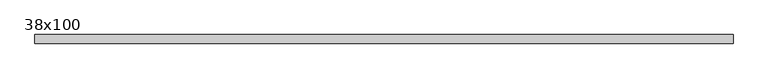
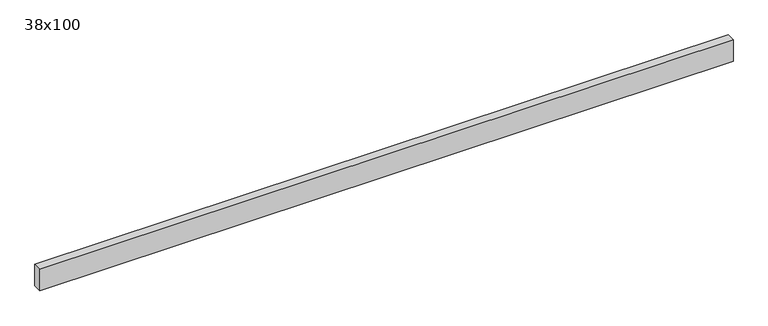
"""IFC4 building model written with IfcOpenShell, lengths in millimetres: beam geometry, Poutre - Bois de construction de dimensions courantes : 38x100."""

from ifc_helpers import new_model, si_unit, frame, origin, place, context, project, spatial, polyline, outline, extrude, source, transform, mapped, element, save


def beam_38x100_566ae520(model_context):
    return source(origin(), model_context, "Body", "SweptSolid", [
        extrude(outline(polyline([(1534.5, 19.05), (1534.5, -19.05), (-1534.5, -19.05), (-1534.5, 19.05), (1534.5, 19.05)])), frame((0.0, 0.0, -50.0), z_axis=(0.0, 0.0, 1.0), x_axis=(1.0, 0.0, 0.0)), (0.0, 0.0, 1.0), 100.0),
    ])


if __name__ == "__main__":
    model = new_model("IFC4")
    model_context = context("Model", 3, world=origin())
    ifc_project = project(units=[si_unit("LENGTHUNIT", "METRE", prefix="MILLI")], contexts=[model_context])
    site = spatial("IfcSite", under=ifc_project)
    building = spatial("IfcBuilding", under=site)
    placement = place(None, origin())
    beam_38x100_shape = beam_38x100_566ae520(model_context)
    element("IfcBeam", 1, ObjectType="Poutre - Bois de construction de dimensions courantes : 38x100", at=placement, inside=building, context=model_context, shape_type="MappedRepresentation", body=[
        mapped(beam_38x100_shape, transform((0.0, 0.0, 0.0), x_axis=(1.0, 0.0, 0.0), y_axis=(0.0, 1.0, 0.0), z_axis=(0.0, 0.0, 1.0))),
    ])
    save(model, "model.ifc")
